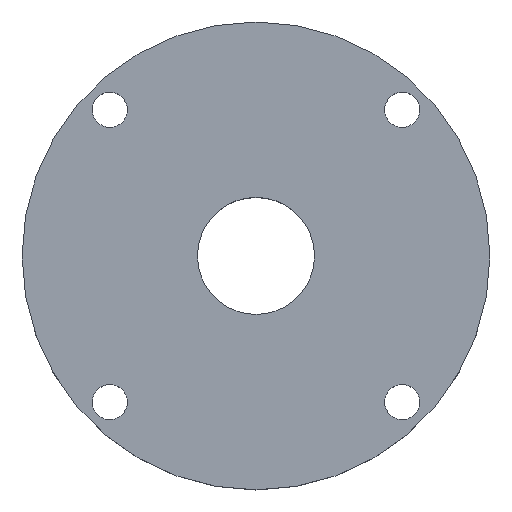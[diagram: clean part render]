
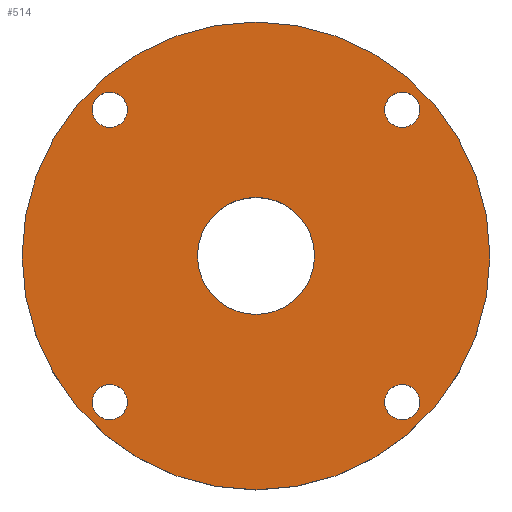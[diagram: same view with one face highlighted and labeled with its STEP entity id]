
A CAD part, top view. The second image highlights one B-rep face of the part: STEP entity #514.
In plain terms, the highlighted planar face has unit normal (0, 0, 1).
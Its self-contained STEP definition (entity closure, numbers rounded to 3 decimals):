
#43 = CYLINDRICAL_SURFACE('',#44,40.);
#44 = AXIS2_PLACEMENT_3D('',#45,#46,#47);
#45 = CARTESIAN_POINT('',(0.,0.,0.));
#46 = DIRECTION('',(0.,0.,1.));
#47 = DIRECTION('',(1.,0.,-0.));
#74 = CYLINDRICAL_SURFACE('',#75,3.);
#75 = AXIS2_PLACEMENT_3D('',#76,#77,#78);
#76 = CARTESIAN_POINT('',(25.,-25.,-12.));
#77 = DIRECTION('',(0.,0.,1.));
#78 = DIRECTION('',(1.,0.,-0.));
#105 = CYLINDRICAL_SURFACE('',#106,3.);
#106 = AXIS2_PLACEMENT_3D('',#107,#108,#109);
#107 = CARTESIAN_POINT('',(-25.,-25.,-12.));
#108 = DIRECTION('',(0.,0.,1.));
#109 = DIRECTION('',(1.,0.,-0.));
#136 = CYLINDRICAL_SURFACE('',#137,3.);
#137 = AXIS2_PLACEMENT_3D('',#138,#139,#140);
#138 = CARTESIAN_POINT('',(25.,25.,-12.));
#139 = DIRECTION('',(0.,0.,1.));
#140 = DIRECTION('',(1.,0.,-0.));
#167 = CYLINDRICAL_SURFACE('',#168,10.);
#168 = AXIS2_PLACEMENT_3D('',#169,#170,#171);
#169 = CARTESIAN_POINT('',(0.,0.,12.));
#170 = DIRECTION('',(-0.,-0.,-1.));
#171 = DIRECTION('',(1.,0.,0.));
#198 = CYLINDRICAL_SURFACE('',#199,3.);
#199 = AXIS2_PLACEMENT_3D('',#200,#201,#202);
#200 = CARTESIAN_POINT('',(-25.,25.,-12.));
#201 = DIRECTION('',(0.,0.,1.));
#202 = DIRECTION('',(1.,0.,-0.));
#215 = VERTEX_POINT('',#216);
#216 = CARTESIAN_POINT('',(40.,0.,12.));
#237 = EDGE_CURVE('',#215,#215,#238,.T.);
#238 = SURFACE_CURVE('',#239,(#244,#251),.PCURVE_S1.);
#239 = CIRCLE('',#240,40.);
#240 = AXIS2_PLACEMENT_3D('',#241,#242,#243);
#241 = CARTESIAN_POINT('',(0.,0.,12.));
#242 = DIRECTION('',(0.,0.,1.));
#243 = DIRECTION('',(1.,0.,-0.));
#244 = PCURVE('',#43,#245);
#245 = DEFINITIONAL_REPRESENTATION('',(#246),#250);
#246 = LINE('',#247,#248);
#247 = CARTESIAN_POINT('',(0.,12.));
#248 = VECTOR('',#249,1.);
#249 = DIRECTION('',(1.,0.));
#250 = ( GEOMETRIC_REPRESENTATION_CONTEXT(2) 
PARAMETRIC_REPRESENTATION_CONTEXT() REPRESENTATION_CONTEXT('2D SPACE',''
  ) );
#251 = PCURVE('',#252,#257);
#252 = PLANE('',#253);
#253 = AXIS2_PLACEMENT_3D('',#254,#255,#256);
#254 = CARTESIAN_POINT('',(0.,0.,12.));
#255 = DIRECTION('',(0.,0.,1.));
#256 = DIRECTION('',(1.,0.,-0.));
#257 = DEFINITIONAL_REPRESENTATION('',(#258),#262);
#258 = CIRCLE('',#259,40.);
#259 = AXIS2_PLACEMENT_2D('',#260,#261);
#260 = CARTESIAN_POINT('',(0.,0.));
#261 = DIRECTION('',(1.,0.));
#262 = ( GEOMETRIC_REPRESENTATION_CONTEXT(2) 
PARAMETRIC_REPRESENTATION_CONTEXT() REPRESENTATION_CONTEXT('2D SPACE',''
  ) );
#268 = EDGE_CURVE('',#269,#269,#271,.T.);
#269 = VERTEX_POINT('',#270);
#270 = CARTESIAN_POINT('',(28.,-25.,12.));
#271 = SURFACE_CURVE('',#272,(#277,#284),.PCURVE_S1.);
#272 = CIRCLE('',#273,3.);
#273 = AXIS2_PLACEMENT_3D('',#274,#275,#276);
#274 = CARTESIAN_POINT('',(25.,-25.,12.));
#275 = DIRECTION('',(0.,0.,1.));
#276 = DIRECTION('',(1.,0.,-0.));
#277 = PCURVE('',#74,#278);
#278 = DEFINITIONAL_REPRESENTATION('',(#279),#283);
#279 = LINE('',#280,#281);
#280 = CARTESIAN_POINT('',(0.,24.));
#281 = VECTOR('',#282,1.);
#282 = DIRECTION('',(1.,0.));
#283 = ( GEOMETRIC_REPRESENTATION_CONTEXT(2) 
PARAMETRIC_REPRESENTATION_CONTEXT() REPRESENTATION_CONTEXT('2D SPACE',''
  ) );
#284 = PCURVE('',#252,#285);
#285 = DEFINITIONAL_REPRESENTATION('',(#286),#290);
#286 = CIRCLE('',#287,3.);
#287 = AXIS2_PLACEMENT_2D('',#288,#289);
#288 = CARTESIAN_POINT('',(25.,-25.));
#289 = DIRECTION('',(1.,0.));
#290 = ( GEOMETRIC_REPRESENTATION_CONTEXT(2) 
PARAMETRIC_REPRESENTATION_CONTEXT() REPRESENTATION_CONTEXT('2D SPACE',''
  ) );
#318 = EDGE_CURVE('',#319,#319,#321,.T.);
#319 = VERTEX_POINT('',#320);
#320 = CARTESIAN_POINT('',(-22.,-25.,12.));
#321 = SURFACE_CURVE('',#322,(#327,#334),.PCURVE_S1.);
#322 = CIRCLE('',#323,3.);
#323 = AXIS2_PLACEMENT_3D('',#324,#325,#326);
#324 = CARTESIAN_POINT('',(-25.,-25.,12.));
#325 = DIRECTION('',(0.,0.,1.));
#326 = DIRECTION('',(1.,0.,-0.));
#327 = PCURVE('',#105,#328);
#328 = DEFINITIONAL_REPRESENTATION('',(#329),#333);
#329 = LINE('',#330,#331);
#330 = CARTESIAN_POINT('',(0.,24.));
#331 = VECTOR('',#332,1.);
#332 = DIRECTION('',(1.,0.));
#333 = ( GEOMETRIC_REPRESENTATION_CONTEXT(2) 
PARAMETRIC_REPRESENTATION_CONTEXT() REPRESENTATION_CONTEXT('2D SPACE',''
  ) );
#334 = PCURVE('',#252,#335);
#335 = DEFINITIONAL_REPRESENTATION('',(#336),#340);
#336 = CIRCLE('',#337,3.);
#337 = AXIS2_PLACEMENT_2D('',#338,#339);
#338 = CARTESIAN_POINT('',(-25.,-25.));
#339 = DIRECTION('',(1.,0.));
#340 = ( GEOMETRIC_REPRESENTATION_CONTEXT(2) 
PARAMETRIC_REPRESENTATION_CONTEXT() REPRESENTATION_CONTEXT('2D SPACE',''
  ) );
#368 = EDGE_CURVE('',#369,#369,#371,.T.);
#369 = VERTEX_POINT('',#370);
#370 = CARTESIAN_POINT('',(28.,25.,12.));
#371 = SURFACE_CURVE('',#372,(#377,#384),.PCURVE_S1.);
#372 = CIRCLE('',#373,3.);
#373 = AXIS2_PLACEMENT_3D('',#374,#375,#376);
#374 = CARTESIAN_POINT('',(25.,25.,12.));
#375 = DIRECTION('',(0.,0.,1.));
#376 = DIRECTION('',(1.,0.,-0.));
#377 = PCURVE('',#136,#378);
#378 = DEFINITIONAL_REPRESENTATION('',(#379),#383);
#379 = LINE('',#380,#381);
#380 = CARTESIAN_POINT('',(0.,24.));
#381 = VECTOR('',#382,1.);
#382 = DIRECTION('',(1.,0.));
#383 = ( GEOMETRIC_REPRESENTATION_CONTEXT(2) 
PARAMETRIC_REPRESENTATION_CONTEXT() REPRESENTATION_CONTEXT('2D SPACE',''
  ) );
#384 = PCURVE('',#252,#385);
#385 = DEFINITIONAL_REPRESENTATION('',(#386),#390);
#386 = CIRCLE('',#387,3.);
#387 = AXIS2_PLACEMENT_2D('',#388,#389);
#388 = CARTESIAN_POINT('',(25.,25.));
#389 = DIRECTION('',(1.,0.));
#390 = ( GEOMETRIC_REPRESENTATION_CONTEXT(2) 
PARAMETRIC_REPRESENTATION_CONTEXT() REPRESENTATION_CONTEXT('2D SPACE',''
  ) );
#418 = EDGE_CURVE('',#419,#419,#421,.T.);
#419 = VERTEX_POINT('',#420);
#420 = CARTESIAN_POINT('',(10.,0.,12.));
#421 = SURFACE_CURVE('',#422,(#427,#434),.PCURVE_S1.);
#422 = CIRCLE('',#423,10.);
#423 = AXIS2_PLACEMENT_3D('',#424,#425,#426);
#424 = CARTESIAN_POINT('',(0.,0.,12.));
#425 = DIRECTION('',(0.,0.,1.));
#426 = DIRECTION('',(1.,0.,-0.));
#427 = PCURVE('',#167,#428);
#428 = DEFINITIONAL_REPRESENTATION('',(#429),#433);
#429 = LINE('',#430,#431);
#430 = CARTESIAN_POINT('',(-0.,0.));
#431 = VECTOR('',#432,1.);
#432 = DIRECTION('',(-1.,0.));
#433 = ( GEOMETRIC_REPRESENTATION_CONTEXT(2) 
PARAMETRIC_REPRESENTATION_CONTEXT() REPRESENTATION_CONTEXT('2D SPACE',''
  ) );
#434 = PCURVE('',#252,#435);
#435 = DEFINITIONAL_REPRESENTATION('',(#436),#440);
#436 = CIRCLE('',#437,10.);
#437 = AXIS2_PLACEMENT_2D('',#438,#439);
#438 = CARTESIAN_POINT('',(0.,0.));
#439 = DIRECTION('',(1.,0.));
#440 = ( GEOMETRIC_REPRESENTATION_CONTEXT(2) 
PARAMETRIC_REPRESENTATION_CONTEXT() REPRESENTATION_CONTEXT('2D SPACE',''
  ) );
#468 = EDGE_CURVE('',#469,#469,#471,.T.);
#469 = VERTEX_POINT('',#470);
#470 = CARTESIAN_POINT('',(-22.,25.,12.));
#471 = SURFACE_CURVE('',#472,(#477,#484),.PCURVE_S1.);
#472 = CIRCLE('',#473,3.);
#473 = AXIS2_PLACEMENT_3D('',#474,#475,#476);
#474 = CARTESIAN_POINT('',(-25.,25.,12.));
#475 = DIRECTION('',(0.,0.,1.));
#476 = DIRECTION('',(1.,0.,-0.));
#477 = PCURVE('',#198,#478);
#478 = DEFINITIONAL_REPRESENTATION('',(#479),#483);
#479 = LINE('',#480,#481);
#480 = CARTESIAN_POINT('',(0.,24.));
#481 = VECTOR('',#482,1.);
#482 = DIRECTION('',(1.,0.));
#483 = ( GEOMETRIC_REPRESENTATION_CONTEXT(2) 
PARAMETRIC_REPRESENTATION_CONTEXT() REPRESENTATION_CONTEXT('2D SPACE',''
  ) );
#484 = PCURVE('',#252,#485);
#485 = DEFINITIONAL_REPRESENTATION('',(#486),#490);
#486 = CIRCLE('',#487,3.);
#487 = AXIS2_PLACEMENT_2D('',#488,#489);
#488 = CARTESIAN_POINT('',(-25.,25.));
#489 = DIRECTION('',(1.,0.));
#490 = ( GEOMETRIC_REPRESENTATION_CONTEXT(2) 
PARAMETRIC_REPRESENTATION_CONTEXT() REPRESENTATION_CONTEXT('2D SPACE',''
  ) );
#514 = ADVANCED_FACE('',(#515,#518,#521,#524,#527,#530),#252,.T.);
#515 = FACE_BOUND('',#516,.T.);
#516 = EDGE_LOOP('',(#517));
#517 = ORIENTED_EDGE('',*,*,#237,.T.);
#518 = FACE_BOUND('',#519,.T.);
#519 = EDGE_LOOP('',(#520));
#520 = ORIENTED_EDGE('',*,*,#318,.F.);
#521 = FACE_BOUND('',#522,.T.);
#522 = EDGE_LOOP('',(#523));
#523 = ORIENTED_EDGE('',*,*,#268,.F.);
#524 = FACE_BOUND('',#525,.T.);
#525 = EDGE_LOOP('',(#526));
#526 = ORIENTED_EDGE('',*,*,#468,.F.);
#527 = FACE_BOUND('',#528,.T.);
#528 = EDGE_LOOP('',(#529));
#529 = ORIENTED_EDGE('',*,*,#418,.F.);
#530 = FACE_BOUND('',#531,.T.);
#531 = EDGE_LOOP('',(#532));
#532 = ORIENTED_EDGE('',*,*,#368,.F.);
